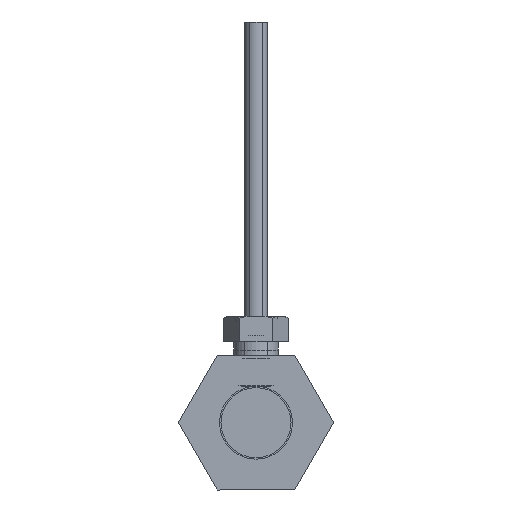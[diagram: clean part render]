
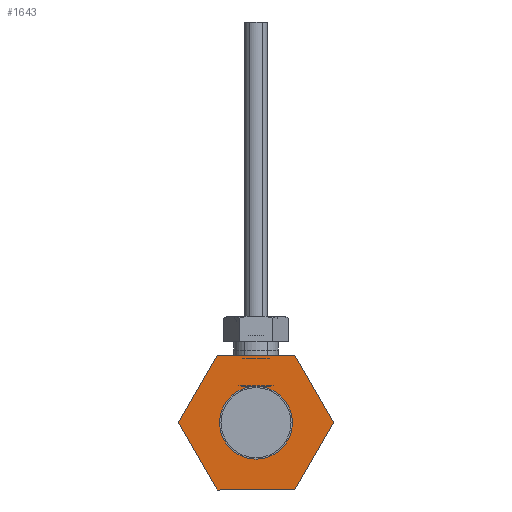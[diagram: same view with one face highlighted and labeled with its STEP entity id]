
A CAD part, front view. The second image highlights one B-rep face of the part: STEP entity #1643.
In plain terms, the highlighted planar face has unit normal (0, -1, 0) as drawn and (-1, 0, 0) by its records, which use the part's own axes.
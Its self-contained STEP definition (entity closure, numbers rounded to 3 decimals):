
#50=LINE('',#3558,#110);
#53=LINE('',#3566,#113);
#56=LINE('',#3572,#116);
#59=LINE('',#3578,#119);
#62=LINE('',#3584,#122);
#65=LINE('',#3590,#125);
#110=VECTOR('',#2962,1000.);
#113=VECTOR('',#2969,1000.);
#116=VECTOR('',#2974,1000.);
#119=VECTOR('',#2979,1000.);
#122=VECTOR('',#2984,1000.);
#125=VECTOR('',#2989,1000.);
#421=ORIENTED_EDGE('',*,*,#727,.F.);
#422=ORIENTED_EDGE('',*,*,#724,.F.);
#423=ORIENTED_EDGE('',*,*,#721,.F.);
#424=ORIENTED_EDGE('',*,*,#718,.F.);
#425=ORIENTED_EDGE('',*,*,#715,.F.);
#426=ORIENTED_EDGE('',*,*,#712,.F.);
#427=ORIENTED_EDGE('',*,*,#708,.F.);
#708=EDGE_CURVE('',#881,#882,#50,.T.);
#712=EDGE_CURVE('',#882,#885,#53,.T.);
#715=EDGE_CURVE('',#885,#887,#56,.T.);
#718=EDGE_CURVE('',#887,#889,#59,.T.);
#721=EDGE_CURVE('',#889,#891,#62,.T.);
#724=EDGE_CURVE('',#891,#881,#65,.T.);
#727=EDGE_CURVE('',#894,#894,#1019,.T.);
#881=VERTEX_POINT('',#3557);
#882=VERTEX_POINT('',#3559);
#885=VERTEX_POINT('',#3567);
#887=VERTEX_POINT('',#3573);
#889=VERTEX_POINT('',#3579);
#891=VERTEX_POINT('',#3585);
#894=VERTEX_POINT('',#3597);
#1019=CIRCLE('',#2644,6.5);
#1159=EDGE_LOOP('',(#421));
#1160=EDGE_LOOP('',(#422,#423,#424,#425,#426,#427));
#1384=FACE_BOUND('',#1159,.T.);
#1385=FACE_BOUND('',#1160,.T.);
#1574=PLANE('',#2643);
#1643=ADVANCED_FACE('',(#1384,#1385),#1574,.F.);
#2643=AXIS2_PLACEMENT_3D('',#3595,#2995,#2996);
#2644=AXIS2_PLACEMENT_3D('',#3596,#2997,#2998);
#2962=DIRECTION('',(0.,-0.5,0.866));
#2969=DIRECTION('',(0.,-1.,0.));
#2974=DIRECTION('',(0.,-0.5,-0.866));
#2979=DIRECTION('',(0.,0.5,-0.866));
#2984=DIRECTION('',(0.,1.,0.));
#2989=DIRECTION('',(0.,0.5,0.866));
#2995=DIRECTION('',(1.,0.,0.));
#2996=DIRECTION('',(0.,0.,-1.));
#2997=DIRECTION('',(-1.,0.,0.));
#2998=DIRECTION('',(0.,0.,1.));
#3557=CARTESIAN_POINT('',(8.,13.856,0.));
#3558=CARTESIAN_POINT('',(8.,13.856,0.));
#3559=CARTESIAN_POINT('',(8.,6.928,12.));
#3566=CARTESIAN_POINT('',(8.,6.928,12.));
#3567=CARTESIAN_POINT('',(8.,-6.928,12.));
#3572=CARTESIAN_POINT('',(8.,-6.928,12.));
#3573=CARTESIAN_POINT('',(8.,-13.856,0.));
#3578=CARTESIAN_POINT('',(8.,-13.856,0.));
#3579=CARTESIAN_POINT('',(8.,-6.928,-12.));
#3584=CARTESIAN_POINT('',(8.,-6.928,-12.));
#3585=CARTESIAN_POINT('',(8.,6.928,-12.));
#3590=CARTESIAN_POINT('',(8.,6.928,-12.));
#3595=CARTESIAN_POINT('',(8.,0.,17.5));
#3596=CARTESIAN_POINT('',(8.,0.,0.));
#3597=CARTESIAN_POINT('',(8.,0.,6.5));
